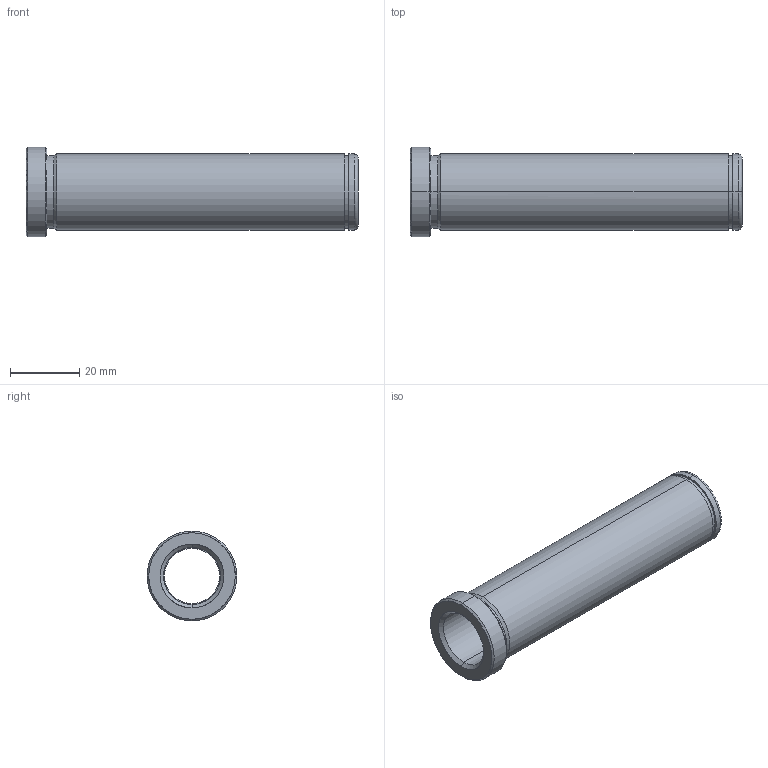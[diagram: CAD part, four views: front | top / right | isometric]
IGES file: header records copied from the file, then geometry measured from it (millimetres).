
Start section: START RECORD GO HERE.
Global section: file name: 553-16X96.igs; native system: DASSAULT SYSTEMES CATIA V5 R20 - www.3ds.com; preprocessor: CATIA Version 5 Release 20 ; author: Utente; organization: NB04-ASUS; date: 20210521.210110; units: millimetre
Bounding box: 96 x 26 x 26 mm (x, y, z)
Surface area: 12233.8 mm2 (no closed solid volume)
Topology: 0 solids, 0 shells, 32 faces, 204 edges, 204 vertices
Faces by surface type: revolution 26, plane 6
